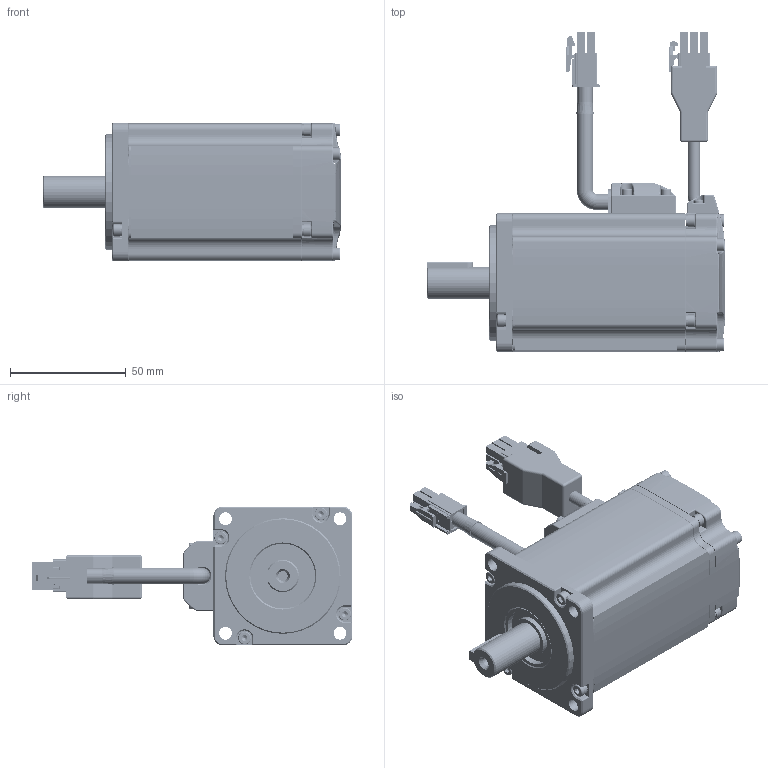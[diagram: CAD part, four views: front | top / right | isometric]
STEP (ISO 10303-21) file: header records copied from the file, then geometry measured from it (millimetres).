
FILE_DESCRIPTION (( 'STEP AP203' ), '1' );
FILE_NAME ('EM3A04A-100-A-S（永磁交流伺服电机）.STEP', '2019-05-27T02:18:23', ( '' ), ( '' ), 'SwSTEP 2.0', 'SolidWorks 2018', '' );
FILE_SCHEMA (( 'CONFIG_CONTROL_DESIGN' ));
Products named in the file (1): EM3A04A-100-A-S（永磁交流伺服电机）
Bounding box: 129 x 138.49 x 60 mm (x, y, z)
Surface area: 67872.8 mm2 (no closed solid volume)
Topology: 0 solids, 655 shells, 4509 faces, 13137 edges, 8865 vertices
Faces by surface type: cylinder 1892, plane 1485, torus 866, cone 140, bspline 92, sphere 34
Entity records: 149277 total; most frequent: CARTESIAN_POINT 30814, DIRECTION 27034, ORIENTED_EDGE 21203, EDGE_CURVE 12925, AXIS2_PLACEMENT_3D 10329, VERTEX_POINT 8853, VECTOR 6376, LINE 6376
